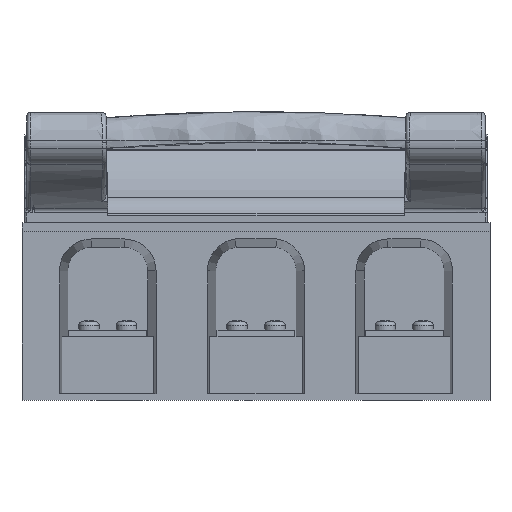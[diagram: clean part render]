
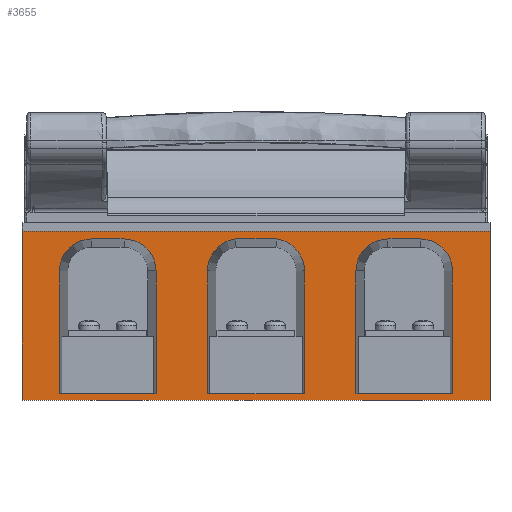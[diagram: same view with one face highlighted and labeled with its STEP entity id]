
A CAD part, left-side view. The second image highlights one B-rep face of the part: STEP entity #3655.
In plain terms, the highlighted planar face has unit normal (-1, 0, 0).
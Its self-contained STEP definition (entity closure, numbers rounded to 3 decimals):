
#917=PLANE('',#27246);
#3655=ADVANCED_FACE('',(#5627,#5628,#5629,#5630),#917,.F.);
#4916=CIRCLE('',#26443,12.289);
#4918=CIRCLE('',#26447,12.289);
#4920=CIRCLE('',#26451,12.289);
#4922=CIRCLE('',#26454,12.289);
#4924=CIRCLE('',#26458,12.394);
#4927=CIRCLE('',#26463,12.394);
#5627=FACE_BOUND('',#6615,.T.);
#5628=FACE_BOUND('',#6616,.T.);
#5629=FACE_BOUND('',#6617,.T.);
#5630=FACE_BOUND('',#6618,.T.);
#6615=EDGE_LOOP('',(#15158,#15159,#15160,#15161,#15162,#15163));
#6616=EDGE_LOOP('',(#15164,#15165,#15166,#15167));
#6617=EDGE_LOOP('',(#15168,#15169,#15170,#15171,#15172,#15173));
#6618=EDGE_LOOP('',(#15174,#15175,#15176,#15177,#15178,#15179));
#7426=LINE('',#35748,#9047);
#7434=LINE('',#35766,#9055);
#7587=LINE('',#36326,#9208);
#7825=LINE('',#40196,#9446);
#7829=LINE('',#40208,#9450);
#7837=LINE('',#40233,#9458);
#7840=LINE('',#40258,#9461);
#7843=LINE('',#40283,#9464);
#7845=LINE('',#40286,#9466);
#8234=LINE('',#50441,#9858);
#8235=LINE('',#50442,#9859);
#8236=LINE('',#50443,#9860);
#8237=LINE('',#50446,#9861);
#8238=LINE('',#50448,#9862);
#8239=LINE('',#50450,#9863);
#8240=LINE('',#50451,#9864);
#9047=VECTOR('',#28498,1.);
#9055=VECTOR('',#28512,1.);
#9208=VECTOR('',#28949,1.);
#9446=VECTOR('',#29919,1.);
#9450=VECTOR('',#29931,1.);
#9458=VECTOR('',#29953,1.);
#9461=VECTOR('',#29964,1.);
#9464=VECTOR('',#29975,1.);
#9466=VECTOR('',#29979,1.);
#9858=VECTOR('',#31933,1.);
#9859=VECTOR('',#31934,1.);
#9860=VECTOR('',#31935,1.);
#9861=VECTOR('',#31936,1.);
#9862=VECTOR('',#31937,1.);
#9863=VECTOR('',#31938,1.);
#9864=VECTOR('',#31939,1.);
#15158=ORIENTED_EDGE('',*,*,#23188,.F.);
#15159=ORIENTED_EDGE('',*,*,#21247,.F.);
#15160=ORIENTED_EDGE('',*,*,#21838,.T.);
#15161=ORIENTED_EDGE('',*,*,#21832,.T.);
#15162=ORIENTED_EDGE('',*,*,#23189,.T.);
#15163=ORIENTED_EDGE('',*,*,#21828,.T.);
#15164=ORIENTED_EDGE('',*,*,#23190,.T.);
#15165=ORIENTED_EDGE('',*,*,#23191,.T.);
#15166=ORIENTED_EDGE('',*,*,#23192,.T.);
#15167=ORIENTED_EDGE('',*,*,#23193,.F.);
#15168=ORIENTED_EDGE('',*,*,#21820,.F.);
#15169=ORIENTED_EDGE('',*,*,#20998,.F.);
#15170=ORIENTED_EDGE('',*,*,#21852,.T.);
#15171=ORIENTED_EDGE('',*,*,#21822,.T.);
#15172=ORIENTED_EDGE('',*,*,#21826,.T.);
#15173=ORIENTED_EDGE('',*,*,#21816,.T.);
#15174=ORIENTED_EDGE('',*,*,#21847,.T.);
#15175=ORIENTED_EDGE('',*,*,#23194,.T.);
#15176=ORIENTED_EDGE('',*,*,#21839,.T.);
#15177=ORIENTED_EDGE('',*,*,#21844,.F.);
#15178=ORIENTED_EDGE('',*,*,#21007,.F.);
#15179=ORIENTED_EDGE('',*,*,#21850,.T.);
#18580=VERTEX_POINT('',#35745);
#18581=VERTEX_POINT('',#35747);
#18588=VERTEX_POINT('',#35765);
#18589=VERTEX_POINT('',#35767);
#18761=VERTEX_POINT('',#36325);
#18762=VERTEX_POINT('',#36327);
#19138=VERTEX_POINT('',#40188);
#19139=VERTEX_POINT('',#40190);
#19142=VERTEX_POINT('',#40200);
#19143=VERTEX_POINT('',#40202);
#19146=VERTEX_POINT('',#40212);
#19147=VERTEX_POINT('',#40214);
#19150=VERTEX_POINT('',#40221);
#19151=VERTEX_POINT('',#40223);
#19155=VERTEX_POINT('',#40236);
#19156=VERTEX_POINT('',#40237);
#19161=VERTEX_POINT('',#40277);
#19162=VERTEX_POINT('',#40279);
#20003=VERTEX_POINT('',#50444);
#20004=VERTEX_POINT('',#50445);
#20005=VERTEX_POINT('',#50447);
#20006=VERTEX_POINT('',#50449);
#20998=EDGE_CURVE('',#18581,#18580,#7426,.T.);
#21007=EDGE_CURVE('',#18588,#18589,#7434,.T.);
#21247=EDGE_CURVE('',#18761,#18762,#7587,.T.);
#21816=EDGE_CURVE('',#19139,#19138,#4916,.T.);
#21820=EDGE_CURVE('',#18580,#19138,#7825,.T.);
#21822=EDGE_CURVE('',#19143,#19142,#4918,.T.);
#21826=EDGE_CURVE('',#19142,#19139,#7829,.T.);
#21828=EDGE_CURVE('',#19147,#19146,#4920,.T.);
#21832=EDGE_CURVE('',#19151,#19150,#4922,.T.);
#21838=EDGE_CURVE('',#18761,#19151,#7837,.T.);
#21839=EDGE_CURVE('',#19155,#19156,#4924,.T.);
#21844=EDGE_CURVE('',#18589,#19156,#7840,.T.);
#21847=EDGE_CURVE('',#19162,#19161,#4927,.T.);
#21850=EDGE_CURVE('',#18588,#19162,#7843,.T.);
#21852=EDGE_CURVE('',#18581,#19143,#7845,.T.);
#23188=EDGE_CURVE('',#18762,#19146,#8234,.T.);
#23189=EDGE_CURVE('',#19150,#19147,#8235,.T.);
#23190=EDGE_CURVE('',#20003,#20004,#8236,.T.);
#23191=EDGE_CURVE('',#20004,#20005,#8237,.T.);
#23192=EDGE_CURVE('',#20005,#20006,#8238,.T.);
#23193=EDGE_CURVE('',#20003,#20006,#8239,.T.);
#23194=EDGE_CURVE('',#19161,#19155,#8240,.T.);
#26443=AXIS2_PLACEMENT_3D('',#40189,#29911,#29912);
#26447=AXIS2_PLACEMENT_3D('',#40201,#29923,#29924);
#26451=AXIS2_PLACEMENT_3D('',#40213,#29935,#29936);
#26454=AXIS2_PLACEMENT_3D('',#40222,#29943,#29944);
#26458=AXIS2_PLACEMENT_3D('',#40235,#29956,#29957);
#26463=AXIS2_PLACEMENT_3D('',#40278,#29969,#29970);
#27246=AXIS2_PLACEMENT_3D('',#50452,#31940,#31941);
#28498=DIRECTION('',(0.,-1.,0.));
#28512=DIRECTION('',(0.,-1.,0.));
#28949=DIRECTION('',(0.,-1.,0.));
#29911=DIRECTION('',(1.,0.,0.));
#29912=DIRECTION('',(0.,0.,-1.));
#29919=DIRECTION('',(0.,0.,1.));
#29923=DIRECTION('',(1.,0.,0.));
#29924=DIRECTION('',(0.,0.,-1.));
#29931=DIRECTION('',(0.,-1.,0.));
#29935=DIRECTION('',(1.,0.,0.));
#29936=DIRECTION('',(0.,0.,-1.));
#29943=DIRECTION('',(1.,0.,0.));
#29944=DIRECTION('',(0.,0.,-1.));
#29953=DIRECTION('',(0.,0.,1.));
#29956=DIRECTION('',(1.,0.,0.));
#29957=DIRECTION('',(0.,0.,-1.));
#29964=DIRECTION('',(0.,0.,1.));
#29969=DIRECTION('',(1.,0.,0.));
#29970=DIRECTION('',(0.,0.,-1.));
#29975=DIRECTION('',(0.,0.,1.));
#29979=DIRECTION('',(0.,0.,1.));
#31933=DIRECTION('',(0.,0.,1.));
#31934=DIRECTION('',(0.,-1.,0.));
#31935=DIRECTION('',(0.,-1.,0.));
#31936=DIRECTION('',(0.,0.,1.));
#31937=DIRECTION('',(0.,1.,0.));
#31938=DIRECTION('',(0.,0.,1.));
#31939=DIRECTION('',(0.,-1.,0.));
#31940=DIRECTION('',(1.,0.,0.));
#31941=DIRECTION('',(0.,1.,0.));
#35745=CARTESIAN_POINT('',(-103.372,48.245,114.588));
#35747=CARTESIAN_POINT('',(-103.372,85.324,114.588));
#35748=CARTESIAN_POINT('',(-103.372,95.284,114.588));
#35765=CARTESIAN_POINT('',(-103.372,28.429,114.588));
#35766=CARTESIAN_POINT('',(-103.372,95.284,114.588));
#35767=CARTESIAN_POINT('',(-103.372,-8.86,114.588));
#36325=CARTESIAN_POINT('',(-103.372,-28.676,114.588));
#36326=CARTESIAN_POINT('',(-103.372,95.284,114.588));
#36327=CARTESIAN_POINT('',(-103.372,-65.755,114.588));
#40188=CARTESIAN_POINT('',(-103.372,48.245,161.838));
#40189=CARTESIAN_POINT('',(-103.372,60.534,161.838));
#40190=CARTESIAN_POINT('',(-103.372,60.534,174.128));
#40196=CARTESIAN_POINT('',(-103.372,48.245,203.088));
#40200=CARTESIAN_POINT('',(-103.372,73.034,174.128));
#40201=CARTESIAN_POINT('',(-103.372,73.034,161.838));
#40202=CARTESIAN_POINT('',(-103.372,85.324,161.838));
#40208=CARTESIAN_POINT('',(-103.372,95.284,174.128));
#40212=CARTESIAN_POINT('',(-103.372,-65.755,161.838));
#40213=CARTESIAN_POINT('',(-103.372,-53.466,161.838));
#40214=CARTESIAN_POINT('',(-103.372,-53.466,174.128));
#40221=CARTESIAN_POINT('',(-103.372,-40.966,174.128));
#40222=CARTESIAN_POINT('',(-103.372,-40.966,161.838));
#40223=CARTESIAN_POINT('',(-103.372,-28.676,161.838));
#40233=CARTESIAN_POINT('',(-103.372,-28.676,203.088));
#40235=CARTESIAN_POINT('',(-103.372,3.534,161.838));
#40236=CARTESIAN_POINT('',(-103.372,1.926,174.128));
#40237=CARTESIAN_POINT('',(-103.372,-8.86,161.838));
#40258=CARTESIAN_POINT('',(-103.372,-8.86,203.088));
#40277=CARTESIAN_POINT('',(-103.372,17.643,174.128));
#40278=CARTESIAN_POINT('',(-103.372,16.034,161.838));
#40279=CARTESIAN_POINT('',(-103.372,28.429,161.838));
#40283=CARTESIAN_POINT('',(-103.372,28.429,203.088));
#40286=CARTESIAN_POINT('',(-103.372,85.324,203.088));
#50441=CARTESIAN_POINT('',(-103.372,-65.755,203.088));
#50442=CARTESIAN_POINT('',(-103.372,95.284,174.128));
#50443=CARTESIAN_POINT('',(-103.372,95.284,112.088));
#50444=CARTESIAN_POINT('',(-103.372,99.784,112.088));
#50445=CARTESIAN_POINT('',(-103.372,-80.216,112.088));
#50446=CARTESIAN_POINT('',(-103.372,-80.216,117.088));
#50447=CARTESIAN_POINT('',(-103.372,-80.216,177.006));
#50448=CARTESIAN_POINT('',(-103.372,95.284,177.006));
#50449=CARTESIAN_POINT('',(-103.372,99.784,177.006));
#50450=CARTESIAN_POINT('',(-103.372,99.784,117.088));
#50451=CARTESIAN_POINT('',(-103.372,95.284,174.128));
#50452=CARTESIAN_POINT('',(-103.372,95.284,203.088));
